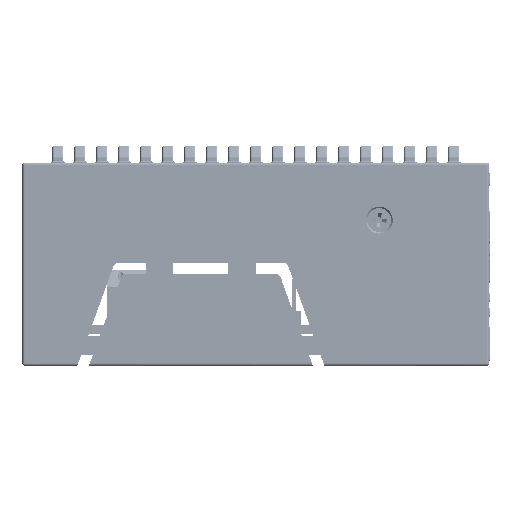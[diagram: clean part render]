
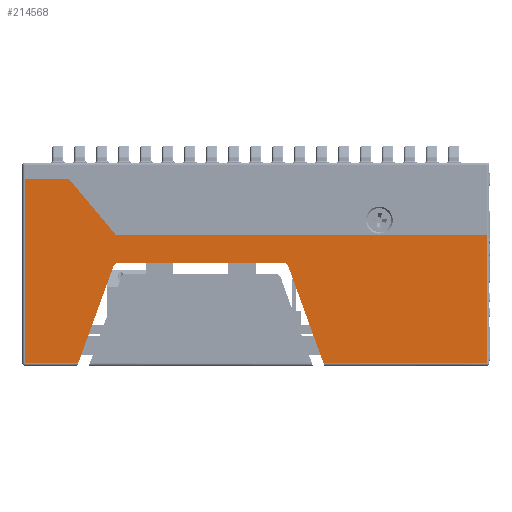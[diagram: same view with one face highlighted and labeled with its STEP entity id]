
A CAD part, front view. The second image highlights one B-rep face of the part: STEP entity #214568.
In plain terms, the highlighted planar face has unit normal (0, -1, 0).
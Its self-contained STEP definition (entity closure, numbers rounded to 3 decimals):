
#101 = VECTOR ( 'NONE', #201790, 1000. ) ;
#4772 = LINE ( 'NONE', #248487, #38876 ) ;
#4982 = VECTOR ( 'NONE', #166436, 1000. ) ;
#10668 = CARTESIAN_POINT ( 'NONE',  ( 541.021, -175.378, -4.629 ) ) ;
#17291 = CARTESIAN_POINT ( 'NONE',  ( 572.346, -175.378, -10.287 ) ) ;
#17342 = CIRCLE ( 'NONE', #115373, 1. ) ;
#20959 = VECTOR ( 'NONE', #213781, 1000. ) ;
#21773 = CARTESIAN_POINT ( 'NONE',  ( 541.47, -175.378, -10.629 ) ) ;
#24584 = DIRECTION ( 'NONE',  ( 0., 1., 0. ) ) ;
#32826 = CARTESIAN_POINT ( 'NONE',  ( 608.938, -175.378, -25.9 ) ) ;
#34070 = ORIENTED_EDGE ( 'NONE', *, *, #75228, .T. ) ;
#34437 = LINE ( 'NONE', #189244, #46348 ) ;
#38876 = VECTOR ( 'NONE', #47108, 1000. ) ;
#39409 = CARTESIAN_POINT ( 'NONE',  ( 532.438, -175.378, 5.6 ) ) ;
#39916 = VERTEX_POINT ( 'NONE', #152468 ) ;
#41402 = EDGE_CURVE ( 'NONE', #117648, #135158, #235397, .T. ) ;
#45095 = ORIENTED_EDGE ( 'NONE', *, *, #88140, .T. ) ;
#46348 = VECTOR ( 'NONE', #238690, 1000. ) ;
#47108 = DIRECTION ( 'NONE',  ( 0., 0., 1. ) ) ;
#51334 = AXIS2_PLACEMENT_3D ( 'NONE', #32826, #24584, #201235 ) ;
#53895 = DIRECTION ( 'NONE',  ( 0.342, 0., -0.94 ) ) ;
#54073 = ORIENTED_EDGE ( 'NONE', *, *, #222348, .T. ) ;
#68686 = VECTOR ( 'NONE', #209197, 1000. ) ;
#75228 = EDGE_CURVE ( 'NONE', #188497, #218011, #17342, .T. ) ;
#76645 = VECTOR ( 'NONE', #164338, 1000. ) ;
#77291 = CARTESIAN_POINT ( 'NONE',  ( 533.938, -175.378, -28.4 ) ) ;
#83185 = EDGE_CURVE ( 'NONE', #135158, #39916, #215225, .T. ) ;
#83828 = LINE ( 'NONE', #172927, #124107 ) ;
#87417 = DIRECTION ( 'NONE',  ( 0., 0., 1. ) ) ;
#88140 = EDGE_CURVE ( 'NONE', #118159, #255083, #34437, .T. ) ;
#88879 = EDGE_CURVE ( 'NONE', #117648, #106736, #137622, .T. ) ;
#88909 = DIRECTION ( 'NONE',  ( 0., 0., 1. ) ) ;
#89004 = ORIENTED_EDGE ( 'NONE', *, *, #129089, .T. ) ;
#89629 = CARTESIAN_POINT ( 'NONE',  ( 534.12, -175.378, -27.9 ) ) ;
#100059 = ORIENTED_EDGE ( 'NONE', *, *, #271353, .T. ) ;
#105558 = EDGE_LOOP ( 'NONE', ( #89004, #152850, #100059, #227045, #54073, #34070, #279128, #45095, #213205, #265077, #213061, #288673 ) ) ;
#106736 = VERTEX_POINT ( 'NONE', #170594 ) ;
#110014 = VERTEX_POINT ( 'NONE', #89629 ) ;
#112298 = DIRECTION ( 'NONE',  ( 0., 1., 0. ) ) ;
#115373 = AXIS2_PLACEMENT_3D ( 'NONE', #148916, #173650, #87417 ) ;
#117648 = VERTEX_POINT ( 'NONE', #220612 ) ;
#118159 = VERTEX_POINT ( 'NONE', #285517 ) ;
#123825 = VERTEX_POINT ( 'NONE', #207081 ) ;
#124107 = VECTOR ( 'NONE', #174365, 1000. ) ;
#129089 = EDGE_CURVE ( 'NONE', #39916, #123825, #83828, .T. ) ;
#135158 = VERTEX_POINT ( 'NONE', #39409 ) ;
#135842 = VECTOR ( 'NONE', #200977, 1000. ) ;
#137622 = LINE ( 'NONE', #206084, #101 ) ;
#146140 = VERTEX_POINT ( 'NONE', #169926 ) ;
#148916 = CARTESIAN_POINT ( 'NONE',  ( 571.406, -175.378, -10.629 ) ) ;
#152468 = CARTESIAN_POINT ( 'NONE',  ( 524.438, -175.378, 5.6 ) ) ;
#152850 = ORIENTED_EDGE ( 'NONE', *, *, #216847, .T. ) ;
#164338 = DIRECTION ( 'NONE',  ( 1., 0., 0. ) ) ;
#164948 = CARTESIAN_POINT ( 'NONE',  ( 572.106, -175.378, -9.629 ) ) ;
#166436 = DIRECTION ( 'NONE',  ( 0.342, 0., 0.94 ) ) ;
#168262 = EDGE_CURVE ( 'NONE', #146140, #173375, #257084, .T. ) ;
#169926 = CARTESIAN_POINT ( 'NONE',  ( 540.531, -175.378, -10.287 ) ) ;
#170594 = CARTESIAN_POINT ( 'NONE',  ( 608.438, -175.378, -4.629 ) ) ;
#172927 = CARTESIAN_POINT ( 'NONE',  ( 524.438, -175.378, -28.4 ) ) ;
#173375 = VERTEX_POINT ( 'NONE', #194937 ) ;
#173650 = DIRECTION ( 'NONE',  ( 0., 1., 0. ) ) ;
#174365 = DIRECTION ( 'NONE',  ( 0., 0., -1. ) ) ;
#176605 = CARTESIAN_POINT ( 'NONE',  ( 608.438, -175.378, -27.9 ) ) ;
#186226 = CARTESIAN_POINT ( 'NONE',  ( 540.77, -175.378, -9.629 ) ) ;
#186845 = LINE ( 'NONE', #164948, #250081 ) ;
#188497 = VERTEX_POINT ( 'NONE', #235158 ) ;
#189244 = CARTESIAN_POINT ( 'NONE',  ( 608.938, -175.378, -27.9 ) ) ;
#194937 = CARTESIAN_POINT ( 'NONE',  ( 541.47, -175.378, -9.629 ) ) ;
#200977 = DIRECTION ( 'NONE',  ( 1., 0., 0. ) ) ;
#201235 = DIRECTION ( 'NONE',  ( 1., 0., 0. ) ) ;
#201790 = DIRECTION ( 'NONE',  ( 1., 0., 0. ) ) ;
#206084 = CARTESIAN_POINT ( 'NONE',  ( 607.438, -175.378, -4.629 ) ) ;
#207081 = CARTESIAN_POINT ( 'NONE',  ( 524.438, -175.378, -27.9 ) ) ;
#209173 = EDGE_CURVE ( 'NONE', #218011, #118159, #186845, .T. ) ;
#209197 = DIRECTION ( 'NONE',  ( -0.643, 0., 0.766 ) ) ;
#210863 = FACE_OUTER_BOUND ( 'NONE', #105558, .T. ) ;
#213061 = ORIENTED_EDGE ( 'NONE', *, *, #41402, .T. ) ;
#213205 = ORIENTED_EDGE ( 'NONE', *, *, #275045, .T. ) ;
#213781 = DIRECTION ( 'NONE',  ( -1., 0., 0. ) ) ;
#214568 = ADVANCED_FACE ( 'NONE', ( #210863 ), #232793, .F. ) ;
#215225 = LINE ( 'NONE', #257494, #20959 ) ;
#216847 = EDGE_CURVE ( 'NONE', #123825, #110014, #243262, .T. ) ;
#218011 = VERTEX_POINT ( 'NONE', #17291 ) ;
#220612 = CARTESIAN_POINT ( 'NONE',  ( 541.021, -175.378, -4.629 ) ) ;
#222348 = EDGE_CURVE ( 'NONE', #173375, #188497, #254631, .T. ) ;
#227045 = ORIENTED_EDGE ( 'NONE', *, *, #168262, .T. ) ;
#232793 = PLANE ( 'NONE',  #51334 ) ;
#235158 = CARTESIAN_POINT ( 'NONE',  ( 571.406, -175.378, -9.629 ) ) ;
#235397 = LINE ( 'NONE', #10668, #68686 ) ;
#238690 = DIRECTION ( 'NONE',  ( 1., 0., 0. ) ) ;
#243262 = LINE ( 'NONE', #244707, #135842 ) ;
#244707 = CARTESIAN_POINT ( 'NONE',  ( 533.938, -175.378, -27.9 ) ) ;
#248487 = CARTESIAN_POINT ( 'NONE',  ( 608.438, -175.378, -25.9 ) ) ;
#250081 = VECTOR ( 'NONE', #53895, 1000. ) ;
#254631 = LINE ( 'NONE', #186226, #76645 ) ;
#255083 = VERTEX_POINT ( 'NONE', #176605 ) ;
#257084 = CIRCLE ( 'NONE', #275633, 1. ) ;
#257494 = CARTESIAN_POINT ( 'NONE',  ( 532.438, -175.378, 5.6 ) ) ;
#265077 = ORIENTED_EDGE ( 'NONE', *, *, #88879, .F. ) ;
#271353 = EDGE_CURVE ( 'NONE', #110014, #146140, #277196, .T. ) ;
#275045 = EDGE_CURVE ( 'NONE', #255083, #106736, #4772, .T. ) ;
#275633 = AXIS2_PLACEMENT_3D ( 'NONE', #21773, #112298, #88909 ) ;
#277196 = LINE ( 'NONE', #77291, #4982 ) ;
#279128 = ORIENTED_EDGE ( 'NONE', *, *, #209173, .T. ) ;
#285517 = CARTESIAN_POINT ( 'NONE',  ( 578.756, -175.378, -27.9 ) ) ;
#288673 = ORIENTED_EDGE ( 'NONE', *, *, #83185, .T. ) ;
